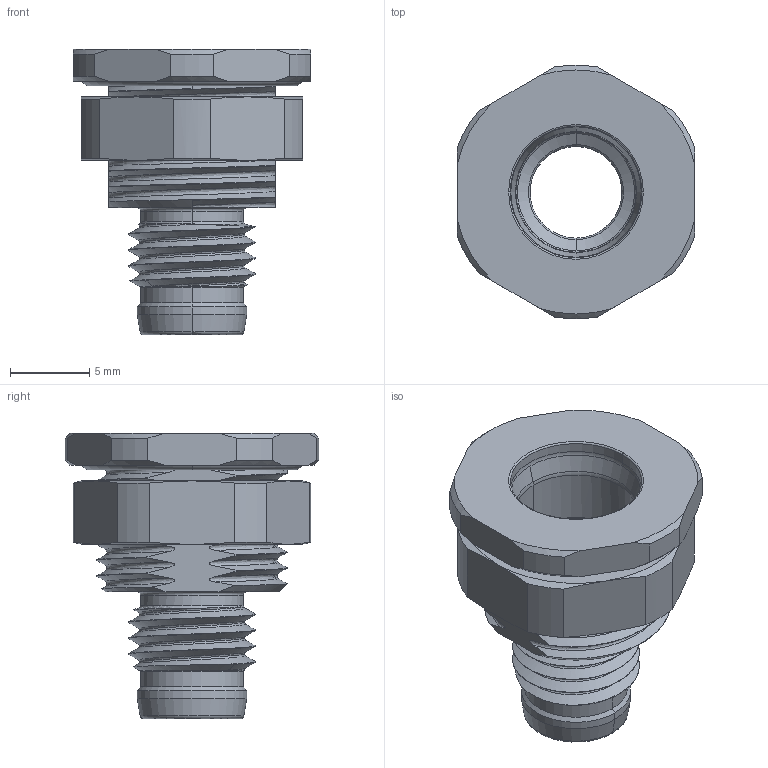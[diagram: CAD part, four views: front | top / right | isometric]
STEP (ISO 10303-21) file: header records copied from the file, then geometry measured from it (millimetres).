
FILE_DESCRIPTION((''),'2;1');
FILE_NAME('229-0002_C_1_ASM','2026-05-21T',('fros.liao'),(''),'CREO PARAMETRIC BY PTC INC, 2018360','CREO PARAMETRIC BY PTC INC, 2018360','');
FILE_SCHEMA(('CONFIG_CONTROL_DESIGN'));
Length unit declared in the file: millimetre
Products named in the file (4): PXC; PXC_ORING; PXC_NUT; 229-0002_C_1_ASM
Assembly tree (3 placements, depth 2):
  229-0002_C_1_ASM
    PXC
    PXC_ORING
    PXC_NUT
Bounding box: 15 x 15.97 x 18 mm (x, y, z)
Volume: 1130.9 mm3; surface area: 2052.7 mm2
Topology: 3 solids, 3 shells, 204 faces, 571 edges, 374 vertices
Faces by surface type: bspline 60, cone 47, cylinder 45, plane 26, torus 26
Entity records: 18269 total; most frequent: CARTESIAN_POINT 13427, ORIENTED_EDGE 1142, DIRECTION 797, EDGE_CURVE 571, VERTEX_POINT 374, AXIS2_PLACEMENT_3D 336, B_SPLINE_CURVE_WITH_KNOTS 261, EDGE_LOOP 211
